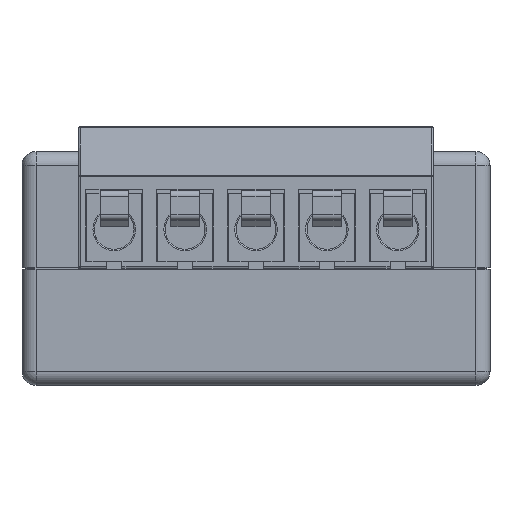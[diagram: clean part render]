
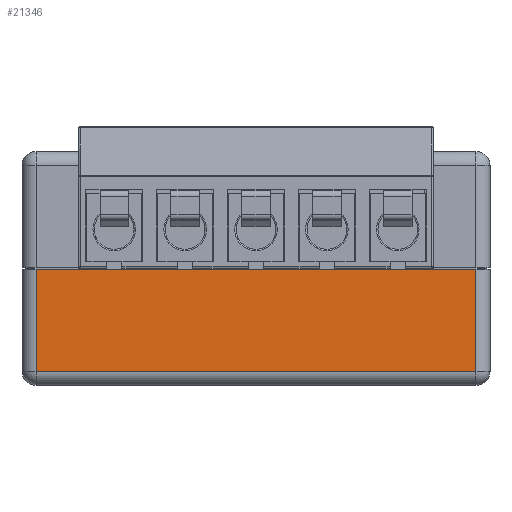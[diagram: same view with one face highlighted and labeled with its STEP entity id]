
A CAD part, top view. The second image highlights one B-rep face of the part: STEP entity #21346.
In plain terms, the highlighted planar face has unit normal (0, 0, 1).
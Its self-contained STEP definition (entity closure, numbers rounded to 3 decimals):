
#3048=FACE_OUTER_BOUND('',#4345,.T.);
#4345=EDGE_LOOP('',(#19081,#19082,#19083,#19084));
#6170=LINE('',#42197,#8073);
#6206=LINE('',#43249,#8109);
#6240=LINE('',#43893,#8143);
#6243=LINE('',#43905,#8146);
#8073=VECTOR('',#28345,10.);
#8109=VECTOR('',#28513,10.);
#8143=VECTOR('',#28655,10.);
#8146=VECTOR('',#28674,10.);
#9939=VERTEX_POINT('',#42194);
#9940=VERTEX_POINT('',#42196);
#10027=VERTEX_POINT('',#43241);
#10076=VERTEX_POINT('',#43886);
#12844=EDGE_CURVE('',#9940,#9939,#6170,.T.);
#12983=EDGE_CURVE('',#10027,#9939,#6206,.T.);
#13079=EDGE_CURVE('',#10076,#9940,#6240,.T.);
#13086=EDGE_CURVE('',#10027,#10076,#6243,.T.);
#19081=ORIENTED_EDGE('',*,*,#13086,.T.);
#19082=ORIENTED_EDGE('',*,*,#13079,.T.);
#19083=ORIENTED_EDGE('',*,*,#12844,.T.);
#19084=ORIENTED_EDGE('',*,*,#12983,.F.);
#20225=PLANE('',#23309);
#21346=ADVANCED_FACE('',(#3048),#20225,.F.);
#23309=AXIS2_PLACEMENT_3D('',#43925,#28707,#28708);
#28345=DIRECTION('',(-1.,0.,0.));
#28513=DIRECTION('',(0.,1.,0.));
#28655=DIRECTION('',(0.,1.,0.));
#28674=DIRECTION('',(1.,0.,0.));
#28707=DIRECTION('center_axis',(0.,0.,-1.));
#28708=DIRECTION('ref_axis',(1.,0.,0.));
#42194=CARTESIAN_POINT('',(-15.5,-0.05,1.35));
#42196=CARTESIAN_POINT('',(15.5,-0.05,1.35));
#42197=CARTESIAN_POINT('',(0.,-0.05,1.35));
#43241=CARTESIAN_POINT('',(-15.5,-7.248,1.35));
#43249=CARTESIAN_POINT('',(-15.5,0.,1.35));
#43886=CARTESIAN_POINT('',(15.5,-7.248,1.35));
#43893=CARTESIAN_POINT('',(15.5,0.,1.35));
#43905=CARTESIAN_POINT('',(0.,-7.248,1.35));
#43925=CARTESIAN_POINT('Origin',(0.,0.,1.35));
